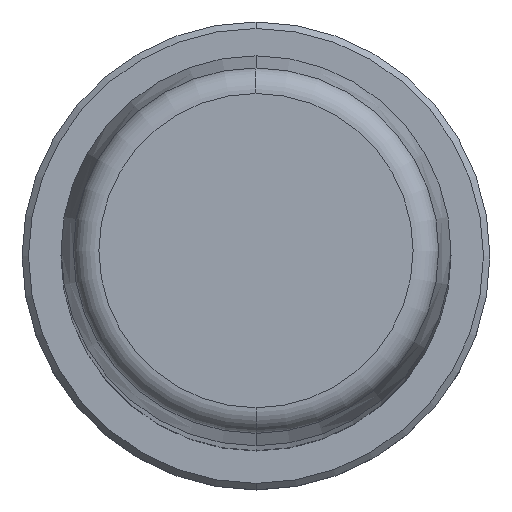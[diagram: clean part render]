
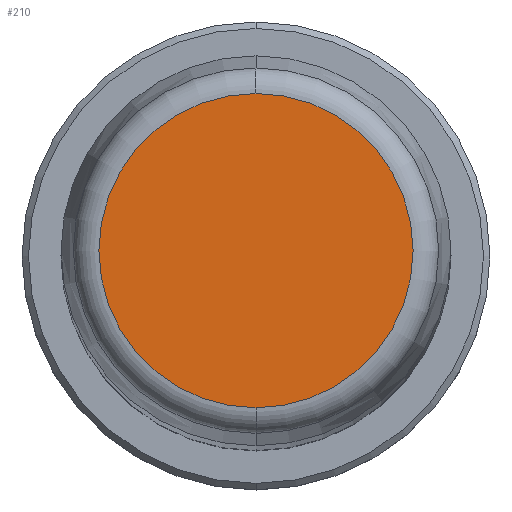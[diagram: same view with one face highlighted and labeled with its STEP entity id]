
A CAD part, top view. The second image highlights one B-rep face of the part: STEP entity #210.
In plain terms, the highlighted planar face has unit normal (0, 0, 1).
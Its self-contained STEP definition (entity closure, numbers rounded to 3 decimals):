
#1=CARTESIAN_POINT('',(0.,0.,240.));
#2=DIRECTION('',(0.,0.,-1.));
#3=DIRECTION('',(0.,-1.,0.));
#4=AXIS2_PLACEMENT_3D('',#1,#2,#3);
#6=CARTESIAN_POINT('',(0.,0.,240.));
#7=DIRECTION('',(0.,0.,-1.));
#8=DIRECTION('',(0.,1.,0.));
#9=AXIS2_PLACEMENT_3D('',#6,#7,#8);
#183=CARTESIAN_POINT('',(0.,-12.088,240.));
#184=CARTESIAN_POINT('',(0.,12.088,240.));
#185=VERTEX_POINT('',#183);
#186=VERTEX_POINT('',#184);
#199=CARTESIAN_POINT('',(0.,0.,240.));
#200=DIRECTION('',(0.,0.,1.));
#201=DIRECTION('',(0.,-1.,0.));
#202=AXIS2_PLACEMENT_3D('',#199,#200,#201);
#203=PLANE('',#202);
#205=ORIENTED_EDGE('',*,*,#204,.T.);
#207=ORIENTED_EDGE('',*,*,#206,.T.);
#208=EDGE_LOOP('',(#205,#207));
#209=FACE_OUTER_BOUND('',#208,.F.);
#210=ADVANCED_FACE('',(#209),#203,.T.);
#5=CIRCLE('',#4,12.088);
#10=CIRCLE('',#9,12.088);
#204=EDGE_CURVE('',#185,#186,#5,.T.);
#206=EDGE_CURVE('',#186,#185,#10,.T.);
